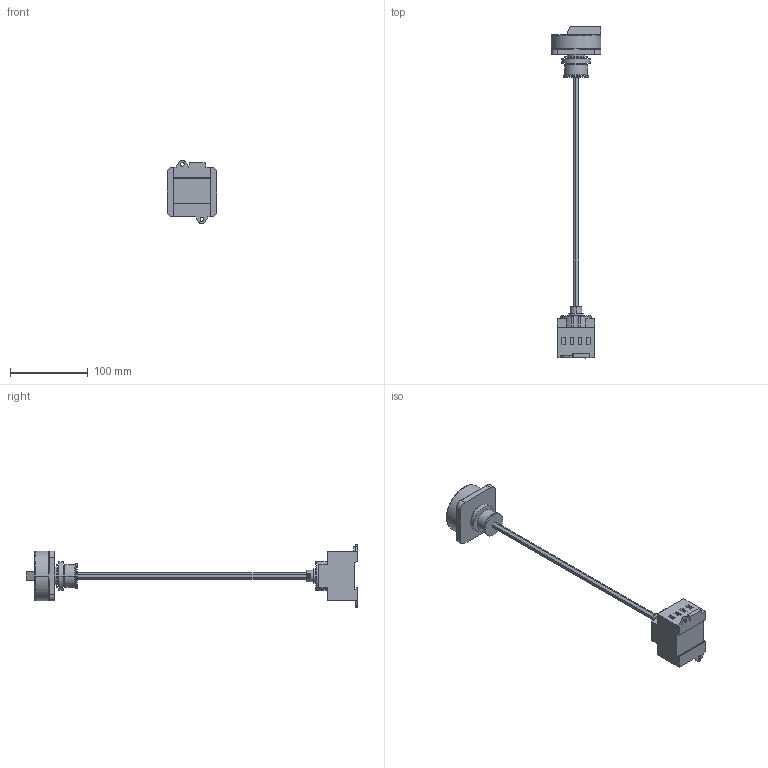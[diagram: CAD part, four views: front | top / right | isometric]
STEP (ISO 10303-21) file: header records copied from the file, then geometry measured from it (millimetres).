
FILE_DESCRIPTION (( 'STEP AP203' ), '1' );
FILE_NAME ('LTS20 VZVHN4 A3 +T_380.STEP', '2013-09-11T11:38:18', ( 'edv' ), ( '' ), 'SwSTEP 2.0', 'SolidWorks 2013', '' );
FILE_SCHEMA (( 'CONFIG_CONTROL_DESIGN' ));
Length unit declared in the file: millimetre
Products named in the file (5): LTS25; Achse TK-LT; LTS20 VZVHN4 A3 +T_380; 8184; TK2Z H4
Assembly tree (4 placements, depth 2):
  LTS20 VZVHN4 A3 +T_380
    LTS25
    TK2Z H4
    8184
    Achse TK-LT
Bounding box: 64 x 425.7 x 80.8 mm (x, y, z)
Volume: 235352.4 mm3; surface area: 56302.3 mm2
Topology: 4 solids, 4 shells, 283 faces, 714 edges, 452 vertices
Faces by surface type: plane 157, cylinder 72, cone 23, bspline 18, torus 13
Entity records: 9577 total; most frequent: CARTESIAN_POINT 2384, ORIENTED_EDGE 1408, DIRECTION 1374, EDGE_CURVE 704, AXIS2_PLACEMENT_3D 489, VERTEX_POINT 452, VECTOR 396, LINE 396
